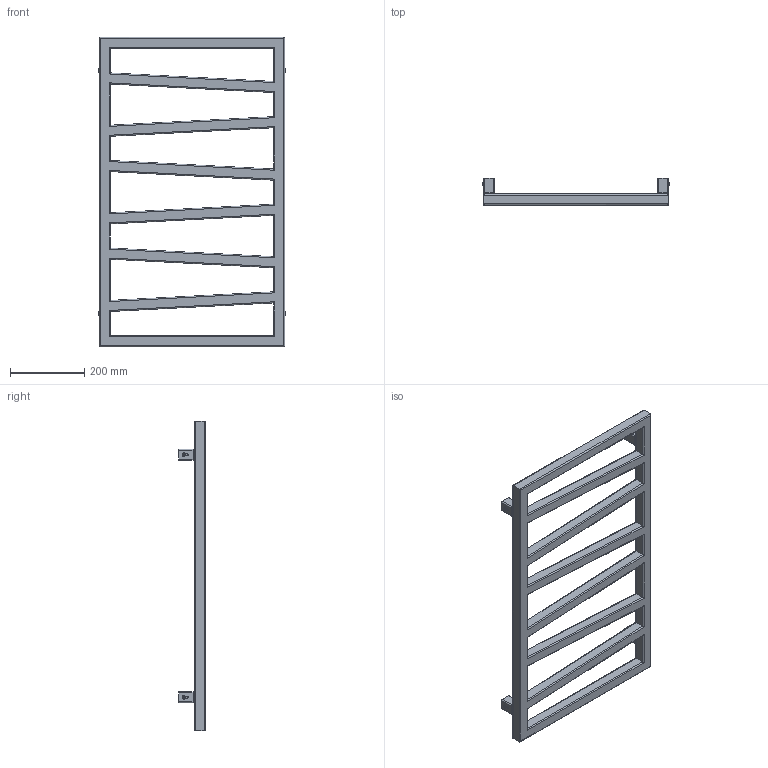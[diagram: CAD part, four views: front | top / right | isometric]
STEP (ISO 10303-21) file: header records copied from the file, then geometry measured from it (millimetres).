
FILE_DESCRIPTION((''),'2;1');
FILE_NAME('Z:\R\G\P\RGP106 - Grzejnik Zigzag\Work\Inventor\Marketing\Katalog 2012\Modele AutoCAD\ZIG-835-500-SX.stp','2012-07-12T15:35:13',('KurKa'),(''),'Autodesk Inventor 2012','Autodesk Inventor 2012','');
FILE_SCHEMA(('AUTOMOTIVE_DESIGN { 1 0 10303 214 1 1 1 1 }'));
Length unit declared in the file: millimetre
Products named in the file (3): ZIG-835-500-SX; MMT42_marketing
Assembly tree (5 placements, depth 2):
  ZIG-835-500-SX
    ZIG-835-500-SX
    MMT42_marketing  x4
Bounding box: 506 x 72 x 835 mm (x, y, z)
Volume: 4765113.3 mm3; surface area: 617269.6 mm2
Topology: 5 solids, 5 shells, 287 faces, 675 edges, 413 vertices
Faces by surface type: plane 137, cylinder 115, cone 24, torus 11
Full cylindrical faces by diameter (mm): 4.509 x4, 11.445 x1, 12 x4, 18.631 x2
Entity records: 4305 total; most frequent: DIRECTION 762, CARTESIAN_POINT 736, ORIENTED_EDGE 672, EDGE_CURVE 336, AXIS2_PLACEMENT_3D 270, VECTOR 222, LINE 222, VERTEX_POINT 204
